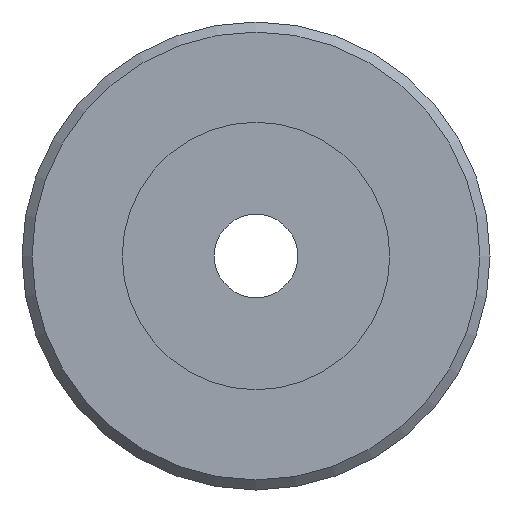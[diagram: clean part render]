
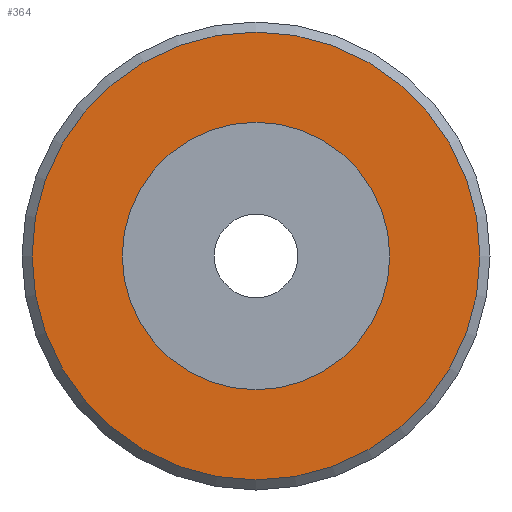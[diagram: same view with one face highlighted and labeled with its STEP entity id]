
A CAD part, front view. The second image highlights one B-rep face of the part: STEP entity #364.
In plain terms, the highlighted planar face has unit normal (0, -1, 0).
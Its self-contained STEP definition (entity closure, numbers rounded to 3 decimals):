
#17=FACE_BOUND('',#66,.T.);
#25=PLANE('',#418);
#39=FACE_OUTER_BOUND('',#65,.T.);
#65=EDGE_LOOP('',(#257));
#66=EDGE_LOOP('',(#258));
#133=CIRCLE('',#417,6.7);
#134=CIRCLE('',#419,4.);
#168=VERTEX_POINT('',#624);
#169=VERTEX_POINT('',#628);
#203=EDGE_CURVE('',#168,#168,#133,.T.);
#204=EDGE_CURVE('',#169,#169,#134,.T.);
#257=ORIENTED_EDGE('',*,*,#203,.F.);
#258=ORIENTED_EDGE('',*,*,#204,.T.);
#364=ADVANCED_FACE('',(#39,#17),#25,.T.);
#417=AXIS2_PLACEMENT_3D('',#626,#488,#489);
#418=AXIS2_PLACEMENT_3D('',#627,#490,#491);
#419=AXIS2_PLACEMENT_3D('',#629,#492,#493);
#488=DIRECTION('center_axis',(0.,1.,0.));
#489=DIRECTION('ref_axis',(1.,0.,0.));
#490=DIRECTION('center_axis',(0.,-1.,0.));
#491=DIRECTION('ref_axis',(0.,0.,-1.));
#492=DIRECTION('center_axis',(0.,1.,0.));
#493=DIRECTION('ref_axis',(1.,0.,0.));
#624=CARTESIAN_POINT('',(-6.7,-18.,0.));
#626=CARTESIAN_POINT('Origin',(0.,-18.,0.));
#627=CARTESIAN_POINT('Origin',(-7.,-18.,0.));
#628=CARTESIAN_POINT('',(-4.,-18.,0.));
#629=CARTESIAN_POINT('Origin',(0.,-18.,0.));
